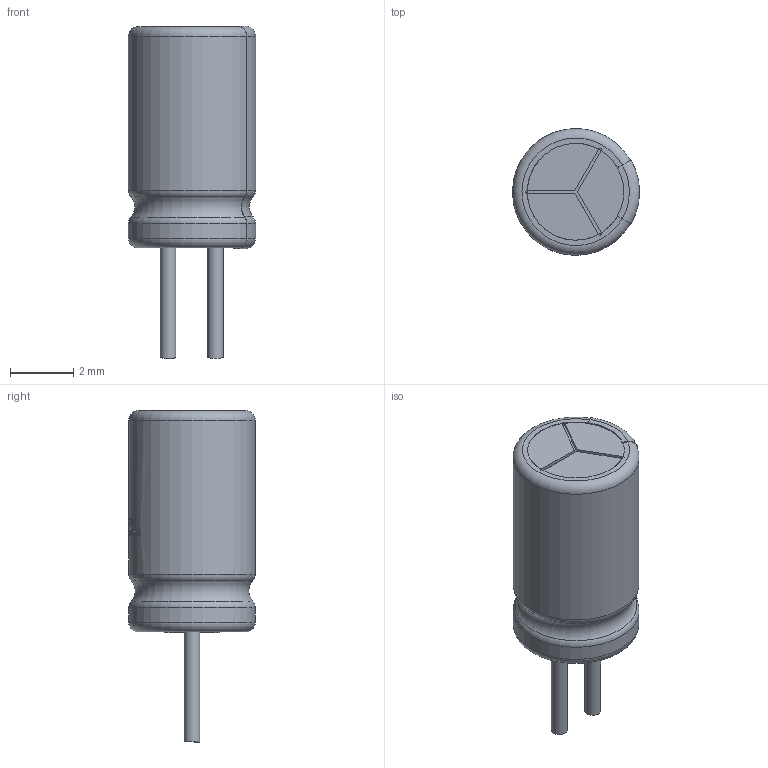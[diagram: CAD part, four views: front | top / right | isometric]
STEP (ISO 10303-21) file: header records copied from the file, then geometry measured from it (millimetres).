
FILE_DESCRIPTION(/* description */ ('STEP AP242 Edition 2','CAx-IF Rec.Pracs.---Representation and Presentation of Product Manufacturing Information (PMI)---4.0---2014-10-13','CAx-IF Rec.Pracs.---3D Tessellated Geometry---0.4---2014-09-14','2;1','CAx-IF Rec.Pracs.---User Defined Attributes---1.5---2016-08-15'),/* implementation_level */ '2;1');
FILE_NAME(/* name */ 'Assembly 1 - CAP-TH_BD4.0-P1.50-D0.8-FD~CAP-TH_D4.0-H7.0-P1.5~nxQB',/* time_stamp */ '2026-04-02T09:55:10Z',/* author */ (''),/* organization */ (''),/* preprocessor_version */ 'ST-DEVELOPER v20',/* originating_system */ 'ONSHAPE BY PTC INC, 1.212',/* authorisation */ ' ');
FILE_SCHEMA (('AP242_MANAGED_MODEL_BASED_3D_ENGINEERING_MIM_LF { 1 0 10303 442 3 1 4 }'));
Length unit declared in the file: metre
Products named in the file (1): CAP-TH_BD4.0-P1.50-D0.8-FD~CAP-TH_D4.0-H7.0-P1.5~nxQB
Bounding box: 4.02 x 4 x 10.5 mm (x, y, z)
Volume: 87.5 mm3; surface area: 123.3 mm2
Topology: 1 solids, 1 shells, 268 faces, 706 edges, 461 vertices
Faces by surface type: plane 130, cylinder 68, bspline 60, torus 10
Full cylindrical faces by diameter (mm): 0.5 x2
Entity records: 9652 total; most frequent: CARTESIAN_POINT 3213, ORIENTED_EDGE 1408, DIRECTION 1173, EDGE_CURVE 704, AXIS2_PLACEMENT_3D 485, VERTEX_POINT 461, EDGE_LOOP 291, FACE_BOUND 291
